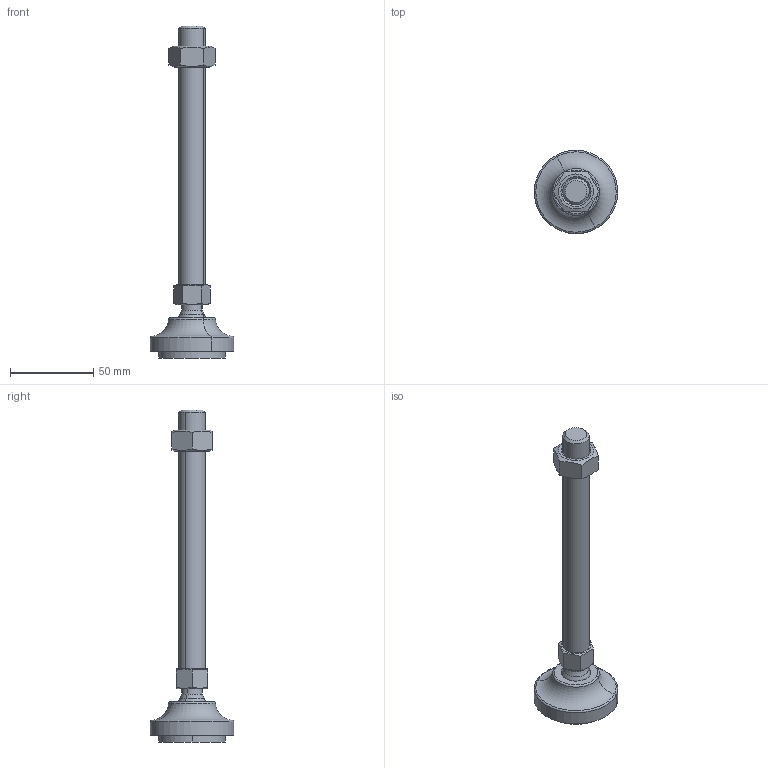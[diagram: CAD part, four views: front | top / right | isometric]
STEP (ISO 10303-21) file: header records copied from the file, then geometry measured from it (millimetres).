
FILE_DESCRIPTION(('CATIA V5 STEP Exchange'),'2;1');
FILE_NAME('C:\Users\ALI OZGUN\Desktop\alhan\saplama2\560501621AV.stp','2017-09-21T10:29:37+00:00',('none'),('none'),'CATIA Version 5 Release 21 GA (IN-10)','CATIA V5 STEP AP203','none');
FILE_SCHEMA(('CONFIG_CONTROL_DESIGN'));
Length unit declared in the file: millimetre
Products named in the file (1): 560501621AV
Bounding box: 49.99 x 49.99 x 199 mm (x, y, z)
Volume: 71172 mm3; surface area: 22640.7 mm2
Topology: 4 solids, 4 shells, 64 faces, 142 edges, 87 vertices
Faces by surface type: plane 22, cylinder 16, cone 16, torus 6, revolution 2, sphere 2
Entity records: 1931 total; most frequent: CARTESIAN_POINT 623, ORIENTED_EDGE 280, DIRECTION 198, EDGE_CURVE 140, AXIS2_PLACEMENT_3D 107, VERTEX_POINT 87, EDGE_LOOP 71, ADVANCED_FACE 64
